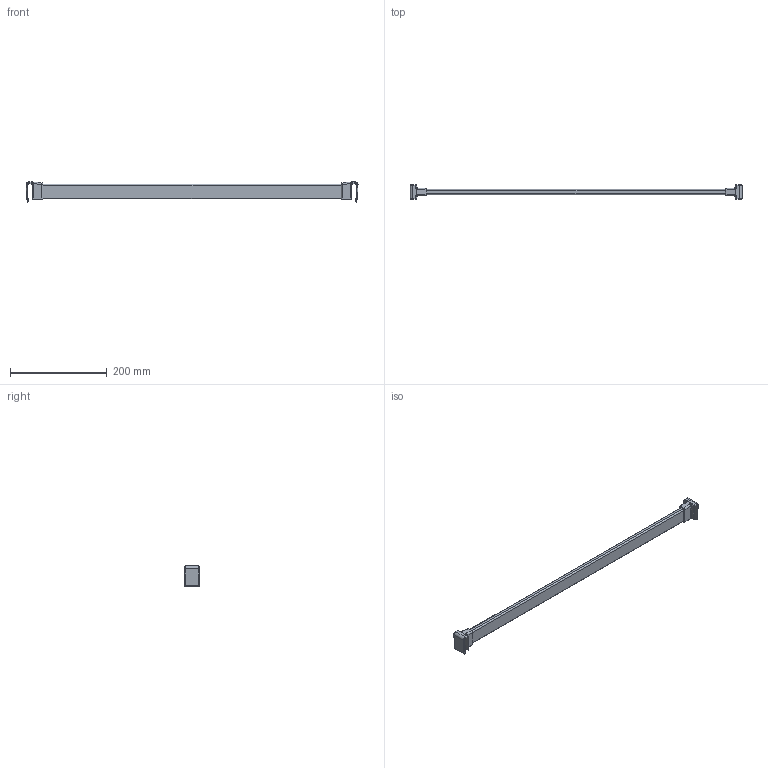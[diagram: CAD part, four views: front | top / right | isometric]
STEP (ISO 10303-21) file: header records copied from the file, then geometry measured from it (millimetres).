
FILE_DESCRIPTION (( 'STEP AP214' ), '1' );
FILE_NAME ('_Querreling_KAB-750_KS-19_P602_Glashalter.step', '2010-08-26T14:58:49', ( 'grass' ), ( '' ), 'SwSTEP 2.0', 'SolidWorks 2009', '' );
FILE_SCHEMA (( 'AUTOMOTIVE_DESIGN' ));
Length unit declared in the file: millimetre
Products named in the file (1): _Querreling_KAB-750_KS-19_P602_Glashalter
Bounding box: 684.78 x 30 x 41.5 mm (x, y, z)
Volume: 225837.6 mm3; surface area: 61648.9 mm2
Topology: 1 solids, 1 shells, 124 faces, 300 edges, 176 vertices
Faces by surface type: cylinder 58, plane 34, torus 16, bspline 12, sphere 4
Entity records: 5090 total; most frequent: CARTESIAN_POINT 2269, ORIENTED_EDGE 592, DIRECTION 590, EDGE_CURVE 296, AXIS2_PLACEMENT_3D 225, VERTEX_POINT 176, LINE 140, VECTOR 140
